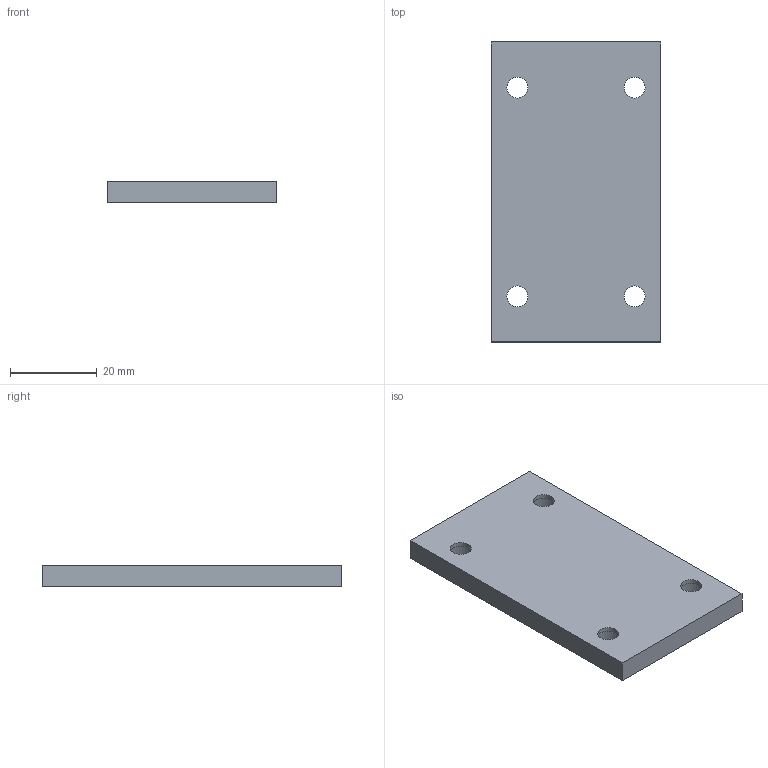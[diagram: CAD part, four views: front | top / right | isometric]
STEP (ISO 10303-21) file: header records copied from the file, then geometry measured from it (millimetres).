
FILE_DESCRIPTION(/* description */ ('Unknown'),/* implementation_level */ '2;1');
FILE_NAME(/* name */ '20240530_Gehaeuse_Not-Aus_Unterteil_Harbauer',/* time_stamp */ '2024-05-30T20:33:59+02:00',/* author */ ('Unknown'),/* organization */ ('Unknown'),/* preprocessor_version */ 'ST-DEVELOPER v19.4',/* originating_system */ 'Solid Edge',/* authorisation */ 'Unknown');
FILE_SCHEMA (('AUTOMOTIVE_DESIGN {1 0 10303 214 3 1 1}'));
Length unit declared in the file: millimetre
Products named in the file (1): Gehaeuse_Unterteil
Bounding box: 39 x 69 x 5 mm (x, y, z)
Volume: 12578.4 mm3; surface area: 6779.7 mm2
Topology: 1 solids, 1 shells, 18 faces, 40 edges, 28 vertices
Faces by surface type: plane 10, cylinder 8
Full cylindrical faces by diameter (mm): 4.8 x4, 8 x4
Entity records: 482 total; most frequent: DIRECTION 82, CARTESIAN_POINT 71, ORIENTED_EDGE 56, EDGE_LOOP 38, FACE_BOUND 38, AXIS2_PLACEMENT_3D 35, EDGE_CURVE 28, VERTEX_POINT 24
